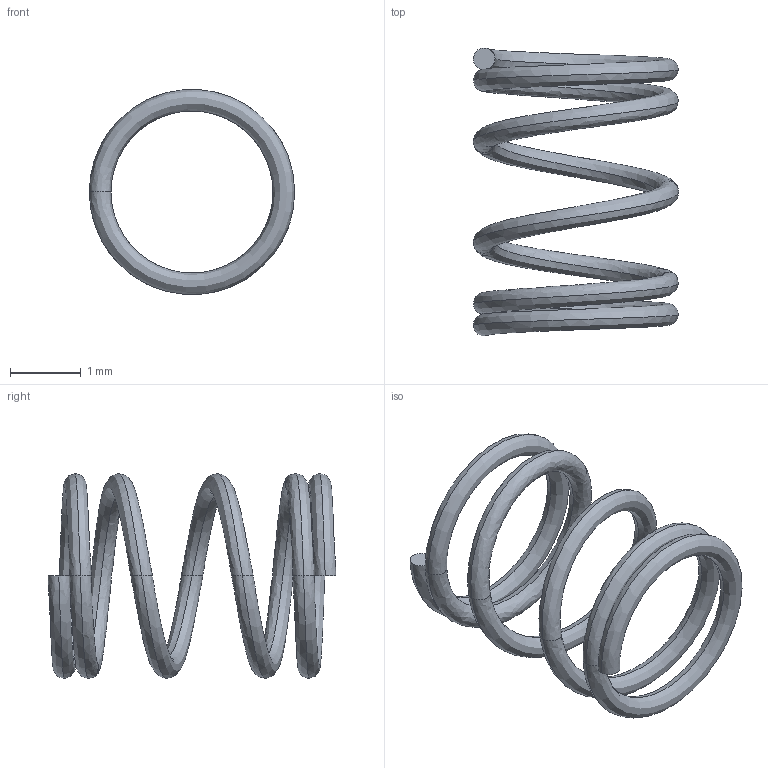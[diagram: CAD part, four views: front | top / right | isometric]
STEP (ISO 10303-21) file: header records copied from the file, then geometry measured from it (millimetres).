
FILE_DESCRIPTION((''),'2;1');
FILE_NAME('001_COMPRESSION_SPRINGS','2023-06-07T',('SYSTEM'),(''),'PRO/ENGINEER BY PARAMETRIC TECHNOLOGY CORPORATION, 2016360','PRO/ENGINEER BY PARAMETRIC TECHNOLOGY CORPORATION, 2016360','');
FILE_SCHEMA(('AUTOMOTIVE_DESIGN { 1 0 10303 214 1 1 1 1 }'));
Length unit declared in the file: inch
Products named in the file (1): 001_COMPRESSION_SPRINGS
Bounding box: 2.9 x 4.06 x 2.89 mm (x, y, z)
Volume: 3 mm3; surface area: 39.2 mm2
Topology: 1 solids, 1 shells, 14 faces, 26 edges, 14 vertices
Faces by surface type: bspline 12, plane 2
Entity records: 3216 total; most frequent: CARTESIAN_POINT 2704, COLOUR_RGB 110, ORIENTED_EDGE 52, PRESENTATION_STYLE_ASSIGNMENT 27, STYLED_ITEM 27, CURVE_STYLE 26, B_SPLINE_CURVE_WITH_KNOTS 26, EDGE_CURVE 26
